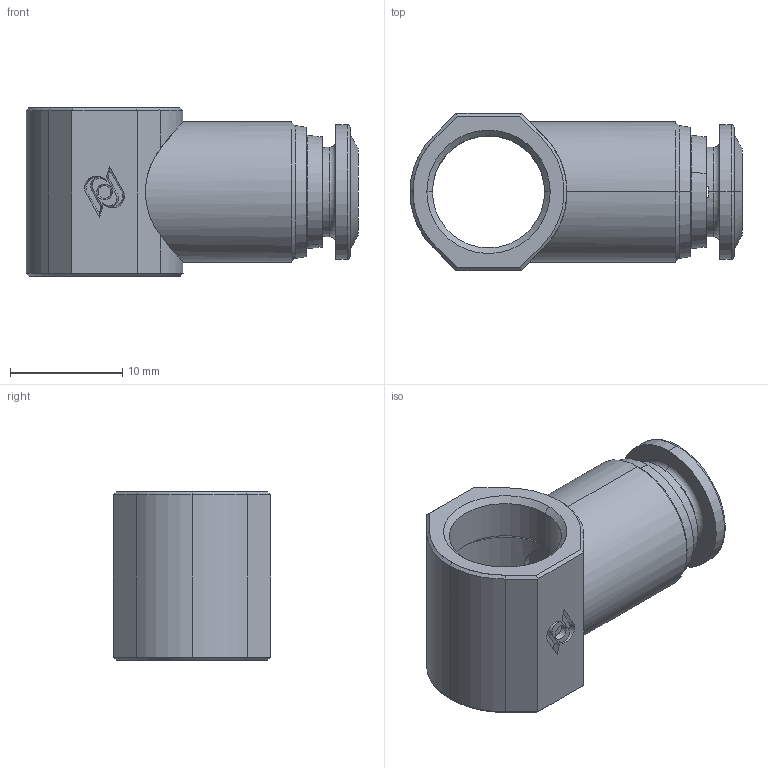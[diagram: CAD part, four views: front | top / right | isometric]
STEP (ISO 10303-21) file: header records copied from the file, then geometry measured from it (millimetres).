
FILE_DESCRIPTION(/* description */ (''),/* implementation_level */ '2;1');
FILE_NAME(/* name */ 'K:\praktykant1\Tomasz Zadworny\Aignep\uzupelnienie\ROBOCZY\5750000004-1\57500 6 18.stp',/* time_stamp */ '2014-07-14T12:23:06+02:00',/* author */ ('Praktykant1'),/* organization */ (''),/* preprocessor_version */ 'ST-DEVELOPER v15.6',/* originating_system */ 'Autodesk Inventor 2015',/* authorisation */ '');
FILE_SCHEMA (('AUTOMOTIVE_DESIGN { 1 0 10303 214 3 1 1 }'));
Length unit declared in the file: millimetre
Products named in the file (1): 57500 6 18
Bounding box: 29.6 x 14 x 15 mm (x, y, z)
Surface area: 2190.8 mm2 (no closed solid volume)
Topology: 0 solids, 121 shells, 121 faces, 532 edges, 532 vertices
Faces by surface type: plane 51, cone 42, cylinder 22, torus 6
Entity records: 6297 total; most frequent: CARTESIAN_POINT 1678, DIRECTION 952, VERTEX_POINT 532, EDGE_CURVE 532, ORIENTED_EDGE 532, AXIS2_PLACEMENT_3D 322, LINE 308, VECTOR 308
